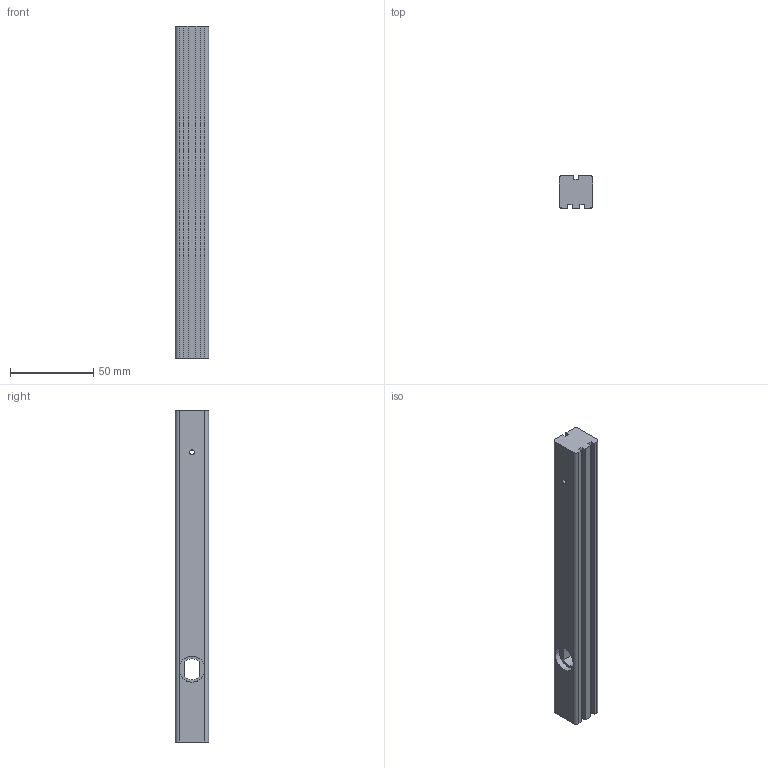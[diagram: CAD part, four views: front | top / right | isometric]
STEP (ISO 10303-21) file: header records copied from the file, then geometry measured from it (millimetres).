
FILE_DESCRIPTION (( 'STEP AP203' ), '1' );
FILE_NAME ('43X 93R style stockbar.STEP', '2020-12-17T02:31:09', ( '' ), ( '' ), 'SwSTEP 2.0', 'SolidWorks 2016', '' );
FILE_SCHEMA (( 'CONFIG_CONTROL_DESIGN' ));
Length unit declared in the file: millimetre
Products named in the file (1): 43X 93R style stockbar
Bounding box: 20 x 20 x 199 mm (x, y, z)
Volume: 71652 mm3; surface area: 19669.1 mm2
Topology: 1 solids, 1 shells, 36 faces, 102 edges, 68 vertices
Faces by surface type: plane 24, cylinder 12
Entity records: 1263 total; most frequent: CARTESIAN_POINT 225, ORIENTED_EDGE 204, DIRECTION 196, EDGE_CURVE 102, LINE 70, VECTOR 70, VERTEX_POINT 68, AXIS2_PLACEMENT_3D 63
